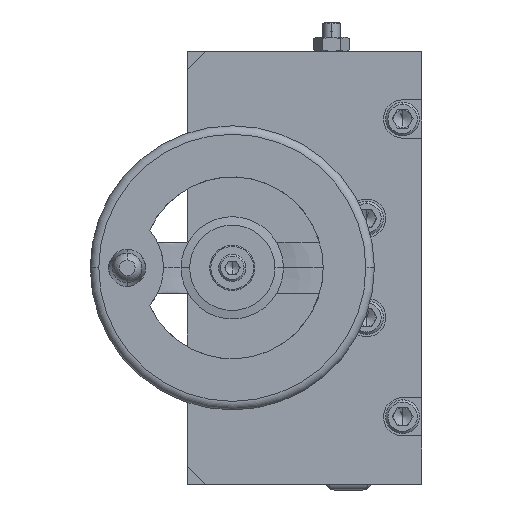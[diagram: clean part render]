
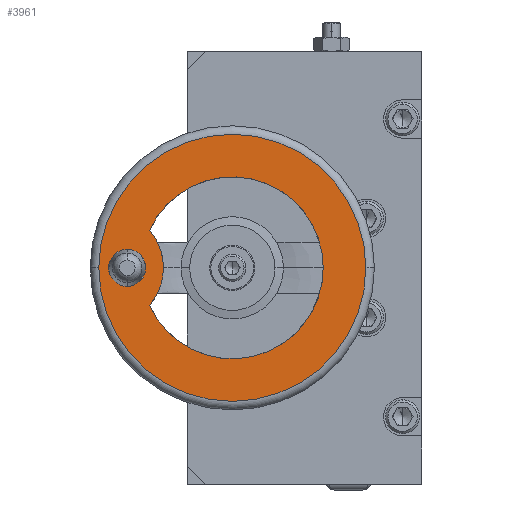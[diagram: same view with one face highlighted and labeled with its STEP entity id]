
A CAD part, left-side view. The second image highlights one B-rep face of the part: STEP entity #3961.
In plain terms, the highlighted planar face has unit normal (-1, 0, 0) as drawn and (0, 1, 0) by its records, which use the part's own axes.
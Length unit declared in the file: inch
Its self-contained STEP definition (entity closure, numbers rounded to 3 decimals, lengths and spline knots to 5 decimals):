
#345 = EDGE_CURVE ( 'NONE', #22377, #22346, #18579, .T. ) ;
#374 = EDGE_CURVE ( 'NONE', #19793, #22400, #18592, .T. ) ;
#378 = EDGE_CURVE ( 'NONE', #22520, #19733, #19036, .T. ) ;
#406 = EDGE_CURVE ( 'NONE', #19812, #22499, #19068, .T. ) ;
#411 = EDGE_CURVE ( 'NONE', #22499, #19733, #19038, .T. ) ;
#423 = EDGE_CURVE ( 'NONE', #19812, #22520, #18827, .T. ) ;
#424 = EDGE_CURVE ( 'NONE', #22346, #22377, #19039, .T. ) ;
#425 = EDGE_CURVE ( 'NONE', #22400, #19793, #19009, .T. ) ;
#1878 = ORIENTED_EDGE ( 'NONE', *, *, #345, .F. ) ;
#1879 = ORIENTED_EDGE ( 'NONE', *, *, #424, .F. ) ;
#1880 = ORIENTED_EDGE ( 'NONE', *, *, #406, .T. ) ;
#1881 = ORIENTED_EDGE ( 'NONE', *, *, #411, .T. ) ;
#1882 = ORIENTED_EDGE ( 'NONE', *, *, #378, .F. ) ;
#1883 = ORIENTED_EDGE ( 'NONE', *, *, #423, .F. ) ;
#1884 = ORIENTED_EDGE ( 'NONE', *, *, #374, .T. ) ;
#1885 = ORIENTED_EDGE ( 'NONE', *, *, #425, .T. ) ;
#2360 = EDGE_LOOP ( 'NONE', ( #1884, #1885 ) ) ;
#2593 = EDGE_LOOP ( 'NONE', ( #1878, #1879 ) ) ;
#2594 = EDGE_LOOP ( 'NONE', ( #1880, #1881, #1882, #1883 ) ) ;
#3961 = ADVANCED_FACE ( 'NONE', ( #12480, #12482, #12484 ), #12485, .T. ) ;
#4736 = CARTESIAN_POINT ( 'NONE',  ( 0., 1.53543, -1.45669 ) ) ;
#4737 = DIRECTION ( 'NONE',  ( 0., 1., 0. ) ) ;
#4738 = DIRECTION ( 'NONE',  ( 0., 0., 1. ) ) ;
#4852 = CARTESIAN_POINT ( 'NONE',  ( 0., 1.53543, 0. ) ) ;
#4853 = DIRECTION ( 'NONE',  ( 0., 1., 0. ) ) ;
#4854 = DIRECTION ( 'NONE',  ( 0., 0., 1. ) ) ;
#4864 = CARTESIAN_POINT ( 'NONE',  ( 0., 1.53543, 0. ) ) ;
#4865 = DIRECTION ( 'NONE',  ( 0., 1., 0. ) ) ;
#4866 = DIRECTION ( 'NONE',  ( 0., 0., 1. ) ) ;
#4995 = CARTESIAN_POINT ( 'NONE',  ( 0., 1.53543, -1.74803 ) ) ;
#4996 = DIRECTION ( 'NONE',  ( 0., 1., 0. ) ) ;
#4997 = DIRECTION ( 'NONE',  ( 1., 0., 0. ) ) ;
#5013 = CARTESIAN_POINT ( 'NONE',  ( 0., 1.53543, -1.74803 ) ) ;
#5014 = DIRECTION ( 'NONE',  ( 0., 1., 0. ) ) ;
#5015 = DIRECTION ( 'NONE',  ( 1., 0., 0. ) ) ;
#5075 = CARTESIAN_POINT ( 'NONE',  ( 0., 1.53543, 0. ) ) ;
#5076 = DIRECTION ( 'NONE',  ( 0., 1., 0. ) ) ;
#5077 = DIRECTION ( 'NONE',  ( 0., 0., 1. ) ) ;
#5078 = CARTESIAN_POINT ( 'NONE',  ( 0., 1.53543, -1.45669 ) ) ;
#5079 = DIRECTION ( 'NONE',  ( 0., 1., 0. ) ) ;
#5080 = DIRECTION ( 'NONE',  ( 0., 0., 1. ) ) ;
#5081 = CARTESIAN_POINT ( 'NONE',  ( 0., 1.53543, 0. ) ) ;
#5082 = DIRECTION ( 'NONE',  ( 0., 1., 0. ) ) ;
#5083 = DIRECTION ( 'NONE',  ( 0., 0., 1. ) ) ;
#8443 = AXIS2_PLACEMENT_3D ( 'NONE', #12481, #12477, #12486 ) ;
#12477 = DIRECTION ( 'NONE',  ( 0., 1., 0. ) ) ;
#12480 = FACE_BOUND ( 'NONE', #2593, .T. ) ;
#12481 = CARTESIAN_POINT ( 'NONE',  ( 1.25984, 1.53543, 0. ) ) ;
#12482 = FACE_BOUND ( 'NONE', #2594, .T. ) ;
#12484 = FACE_OUTER_BOUND ( 'NONE', #2360, .T. ) ;
#12485 = PLANE ( 'NONE',  #8443 ) ;
#12486 = DIRECTION ( 'NONE',  ( 0., 0., 1. ) ) ;
#17232 = CARTESIAN_POINT ( 'NONE',  ( 0.51894, 1.53543, -1.148 ) ) ;
#17292 = CARTESIAN_POINT ( 'NONE',  ( 0., 1.53543, 1.85039 ) ) ;
#17311 = CARTESIAN_POINT ( 'NONE',  ( -0.51894, 1.53543, -1.148 ) ) ;
#17835 = CARTESIAN_POINT ( 'NONE',  ( 0.25591, 1.53543, -1.45669 ) ) ;
#17866 = CARTESIAN_POINT ( 'NONE',  ( -0.25591, 1.53543, -1.45669 ) ) ;
#17889 = CARTESIAN_POINT ( 'NONE',  ( 0., 1.53543, -1.85039 ) ) ;
#17988 = CARTESIAN_POINT ( 'NONE',  ( 0., 1.53543, -0.95472 ) ) ;
#18009 = CARTESIAN_POINT ( 'NONE',  ( 0., 1.53543, 1.25984 ) ) ;
#18579 = CIRCLE ( 'NONE', #18762, 0.25591 ) ;
#18592 = CIRCLE ( 'NONE', #18855, 1.85039 ) ;
#18762 = AXIS2_PLACEMENT_3D ( 'NONE', #4736, #4737, #4738 ) ;
#18827 = CIRCLE ( 'NONE', #19129, 1.25984 ) ;
#18855 = AXIS2_PLACEMENT_3D ( 'NONE', #4852, #4853, #4854 ) ;
#18949 = AXIS2_PLACEMENT_3D ( 'NONE', #5078, #5079, #5080 ) ;
#18976 = AXIS2_PLACEMENT_3D ( 'NONE', #4864, #4865, #4866 ) ;
#18978 = AXIS2_PLACEMENT_3D ( 'NONE', #5013, #5014, #5015 ) ;
#19009 = CIRCLE ( 'NONE', #19099, 1.85039 ) ;
#19036 = CIRCLE ( 'NONE', #18976, 1.25984 ) ;
#19038 = CIRCLE ( 'NONE', #18978, 0.79331 ) ;
#19039 = CIRCLE ( 'NONE', #18949, 0.25591 ) ;
#19068 = CIRCLE ( 'NONE', #19128, 0.79331 ) ;
#19099 = AXIS2_PLACEMENT_3D ( 'NONE', #5081, #5082, #5083 ) ;
#19128 = AXIS2_PLACEMENT_3D ( 'NONE', #4995, #4996, #4997 ) ;
#19129 = AXIS2_PLACEMENT_3D ( 'NONE', #5075, #5076, #5077 ) ;
#19733 = VERTEX_POINT ( 'NONE', #17232 ) ;
#19793 = VERTEX_POINT ( 'NONE', #17292 ) ;
#19812 = VERTEX_POINT ( 'NONE', #17311 ) ;
#22346 = VERTEX_POINT ( 'NONE', #17835 ) ;
#22377 = VERTEX_POINT ( 'NONE', #17866 ) ;
#22400 = VERTEX_POINT ( 'NONE', #17889 ) ;
#22499 = VERTEX_POINT ( 'NONE', #17988 ) ;
#22520 = VERTEX_POINT ( 'NONE', #18009 ) ;
